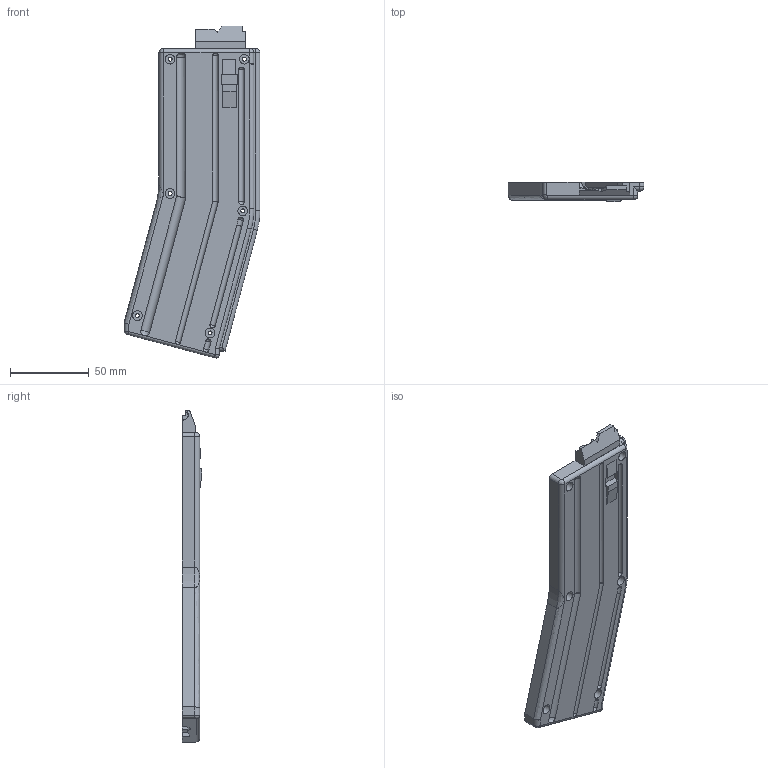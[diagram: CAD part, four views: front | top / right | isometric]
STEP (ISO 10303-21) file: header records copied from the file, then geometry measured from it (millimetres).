
FILE_DESCRIPTION(/* description */ (''),/* implementation_level */ '2;1');
FILE_NAME(/* name */ '//vboxsvr/bigsql-win-testing/CAD/DD2-GIT/freeman1337/cmmg-22lr-mag-25round/STEP/Right Body 25.step',/* time_stamp */ '2021-06-10T14:12:46-07:00',/* author */ (''),/* organization */ (''),/* preprocessor_version */ 'ST-DEVELOPER v18.1',/* originating_system */ 'Autodesk Translation Framework v10.9.0.1377',/* authorisation */ '');
FILE_SCHEMA (('AUTOMOTIVE_DESIGN { 1 0 10303 214 3 1 1 }'));
Length unit declared in the file: millimetre
Products named in the file (1): BodyR
Bounding box: 86 x 12.32 x 210.15 mm (x, y, z)
Volume: 107290.4 mm3; surface area: 34472 mm2
Topology: 1 solids, 2 shells, 205 faces, 530 edges, 334 vertices
Faces by surface type: plane 85, bspline 59, cylinder 51, cone 5, torus 3, sphere 2
Full cylindrical faces by diameter (mm): 2.5 x6, 6.15 x6
Entity records: 8655 total; most frequent: CARTESIAN_POINT 3920, ORIENTED_EDGE 1050, DIRECTION 855, EDGE_CURVE 525, VERTEX_POINT 334, AXIS2_PLACEMENT_3D 305, LINE 245, VECTOR 245
